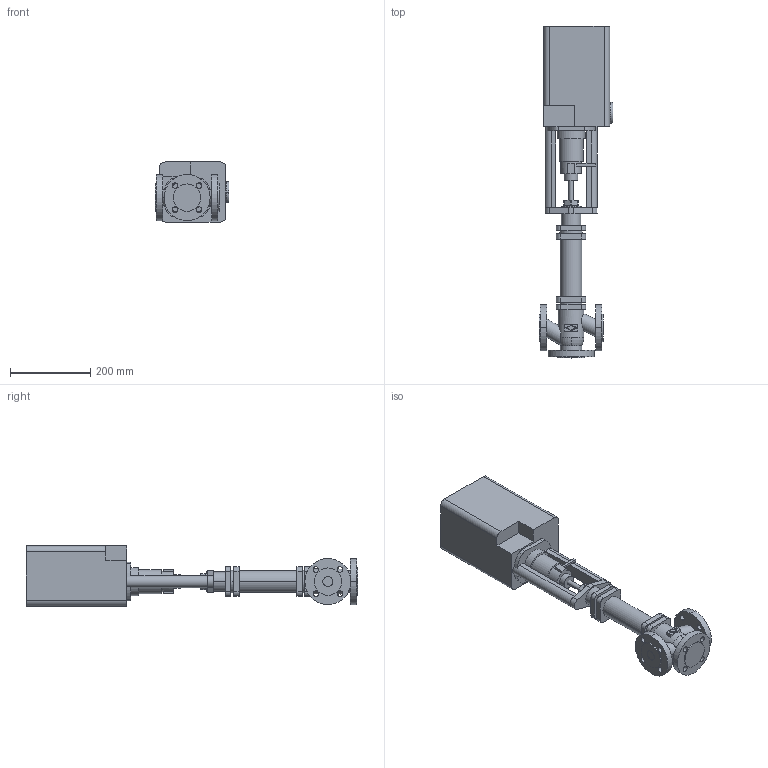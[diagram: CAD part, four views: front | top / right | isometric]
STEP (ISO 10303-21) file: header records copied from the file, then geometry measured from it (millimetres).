
FILE_DESCRIPTION(('OneSpaceDesigner STEP Export'),'2;1');
FILE_NAME('c000002443.stp','2006-09-21T11:46:49',(''),(''),'OneSpace Designer STEP processor for AP214 (Solid Model)','OneSpace Designer 13.20A 18-Aug-2005 (C) CoCreate Software GmbH','');
FILE_SCHEMA(('AUTOMOTIVE_DESIGN { 1 0 10303 214 1 1 1 1 }'));
Length unit declared in the file: millimetre
Products named in the file (2): 1; 2
Bounding box: 184.6 x 828 x 150 mm (x, y, z)
Volume: 8440674 mm3; surface area: 464468.8 mm2
Topology: 2 solids, 2 shells, 229 faces, 579 edges, 385 vertices
Faces by surface type: plane 113, cylinder 112, torus 4
Entity records: 6635 total; most frequent: CARTESIAN_POINT 1251, ORIENTED_EDGE 1158, DIRECTION 1043, EDGE_CURVE 579, VERTEX_POINT 385, AXIS2_PLACEMENT_3D 360, VECTOR 323, LINE 323
